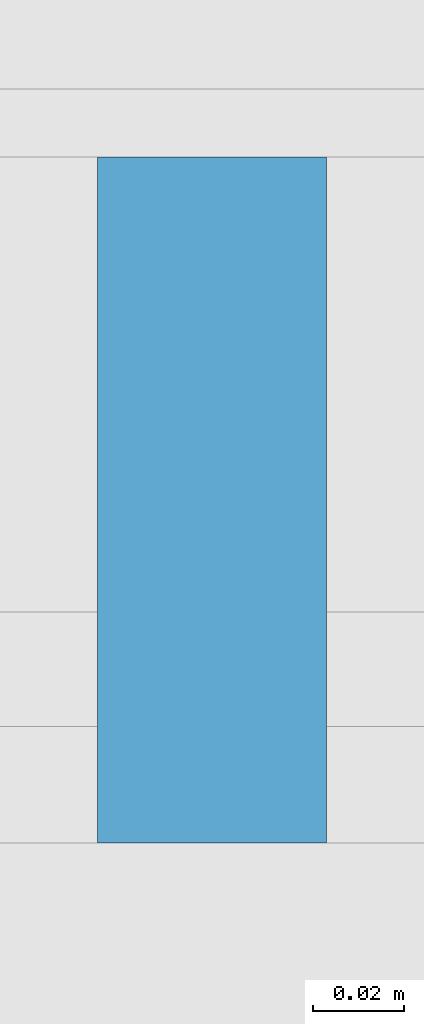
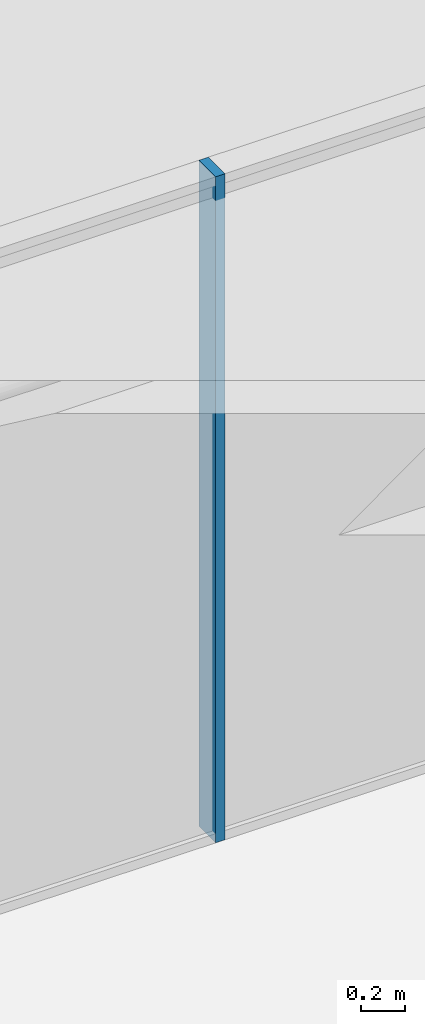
# One storey, part 12 of 25: 1 member, 1 element without a shape of its own.
"""IFC2X3 building model written with IfcOpenShell, lengths in millimetres."""

from ifc_helpers import new_model, entity, si_unit, converted_unit, derived_unit, direction, frame, origin, origin_2d_with_axis, place, context, subcontext, project, spatial, rectangle, extrude, source, transform, mapped, material, type_object, type_shapes, element, aggregate, save


model = new_model("IFC2X3")

# Units and contexts
model_context = context("Model", 3, precision=0.01, world=origin(), true_north=direction((6.12303176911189e-17, 1.0)))
body_context = subcontext(model_context, "Body", "Model", "MODEL_VIEW")
ifc_project = project(units=[si_unit("LENGTHUNIT", "METRE", prefix="MILLI"), si_unit("AREAUNIT", "SQUARE_METRE"), si_unit("VOLUMEUNIT", "CUBIC_METRE"), converted_unit("PLANEANGLEUNIT", "DEGREE", entity("IfcRatioMeasure", 0.0174532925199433), si_unit("PLANEANGLEUNIT", "RADIAN"), dimensions=[0, 0, 0, 0, 0, 0, 0]), si_unit("MASSUNIT", "GRAM", prefix="KILO"), derived_unit("MASSDENSITYUNIT", [(si_unit("MASSUNIT", "GRAM", prefix="KILO"), 1), (si_unit("LENGTHUNIT", "METRE"), -3)]), derived_unit("MOMENTOFINERTIAUNIT", [(si_unit("LENGTHUNIT", "METRE"), 4)]), si_unit("TIMEUNIT", "SECOND"), si_unit("FREQUENCYUNIT", "HERTZ"), si_unit("THERMODYNAMICTEMPERATUREUNIT", "DEGREE_CELSIUS"), derived_unit("THERMALTRANSMITTANCEUNIT", [(si_unit("MASSUNIT", "GRAM", prefix="KILO"), 1), (si_unit("THERMODYNAMICTEMPERATUREUNIT", "KELVIN"), -1), (si_unit("TIMEUNIT", "SECOND"), -3)]), derived_unit("VOLUMETRICFLOWRATEUNIT", [(si_unit("LENGTHUNIT", "METRE"), 3), (si_unit("TIMEUNIT", "SECOND"), -1)]), si_unit("ELECTRICCURRENTUNIT", "AMPERE"), si_unit("ELECTRICVOLTAGEUNIT", "VOLT"), si_unit("POWERUNIT", "WATT"), si_unit("FORCEUNIT", "NEWTON", prefix="KILO"), si_unit("ILLUMINANCEUNIT", "LUX"), si_unit("LUMINOUSFLUXUNIT", "LUMEN"), si_unit("LUMINOUSINTENSITYUNIT", "CANDELA"), derived_unit("USERDEFINED", [(si_unit("MASSUNIT", "GRAM", prefix="KILO"), -1), (si_unit("LENGTHUNIT", "METRE"), -2), (si_unit("TIMEUNIT", "SECOND"), 3), (si_unit("LUMINOUSFLUXUNIT", "LUMEN"), 1)]), derived_unit("LINEARVELOCITYUNIT", [(si_unit("LENGTHUNIT", "METRE"), 1), (si_unit("TIMEUNIT", "SECOND"), -1)]), si_unit("PRESSUREUNIT", "PASCAL"), derived_unit("USERDEFINED", [(si_unit("LENGTHUNIT", "METRE"), -2), (si_unit("MASSUNIT", "GRAM", prefix="KILO"), 1), (si_unit("TIMEUNIT", "SECOND"), -2)]), derived_unit("LINEARFORCEUNIT", [(si_unit("MASSUNIT", "GRAM", prefix="KILO"), 1), (si_unit("LENGTHUNIT", "METRE"), 1), (si_unit("TIMEUNIT", "SECOND"), -2), (si_unit("LENGTHUNIT", "METRE"), -1)]), derived_unit("PLANARFORCEUNIT", [(si_unit("MASSUNIT", "GRAM", prefix="KILO"), 1), (si_unit("LENGTHUNIT", "METRE"), 1), (si_unit("TIMEUNIT", "SECOND"), -2), (si_unit("LENGTHUNIT", "METRE"), -2)])], contexts=[model_context])

# Site, building, storey
site_placement = place(None, frame((10627.5135316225, 21939.0796949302, 0.0)))
site = spatial("IfcSite", under=ifc_project, at=site_placement, Name="Default", CompositionType="ELEMENT")
building_placement = place(site_placement, origin())
building = spatial("IfcBuilding", under=site, at=building_placement, CompositionType="ELEMENT")
storey_placement = place(building_placement, origin())
storey = spatial("IfcBuildingStorey", under=building, at=storey_placement, Name="RDC", CompositionType="ELEMENT", Elevation=0.0)

# Curtain wall, member
curtain_wall_type = type_object("IfcCurtainWallType", Name="Curtain Wall:Curtain_Wall-Empty 2", PredefinedType="NOTDEFINED")
curtain_wall_placement = place(storey_placement, origin())
curtain_wall = element("IfcCurtainWall", 1, at=curtain_wall_placement, inside=storey, type_object=curtain_wall_type, Name="Curtain Wall:Curtain_Wall-Empty 2", ObjectType="Curtain Wall:Curtain_Wall-Empty 2")
ifc_material = material(Name="Aluminium")
member_type = type_object("IfcMemberType", Name="Rectangular Mullion:50x150mm", PredefinedType="MULLION", material=ifc_material)
shared_shape = source(origin(), body_context, "Body", "SweptSolid", [
    extrude(rectangle(XDim=150.0, YDim=50.0, at=origin_2d_with_axis()), frame((0.0, 0.0, -3660.0), z_axis=(0.0, 0.0, 1.0), x_axis=(0.0, -1.0, 0.0)), (0.0, 0.0, 1.0), 3660.0),
])
type_shapes(member_type, [shared_shape])
member_placement = place(storey_placement, frame((36434.4864680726, -10774.0796949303, 0.0), z_axis=(0.0, 0.0, -1.0), x_axis=(-1.0, 0.0, 0.0)))
member = element("IfcMember", 2, at=member_placement, type_object=member_type, material=ifc_material, Name="Rectangular Mullion:50x150mm", ObjectType="Rectangular Mullion:50x150mm", context=body_context, shape_type="MappedRepresentation", body=[
    mapped(shared_shape, transform((0.0, 0.0, 0.0), scale=1.0)),
])
aggregate(curtain_wall, [member])

save(model, "model.ifc")
